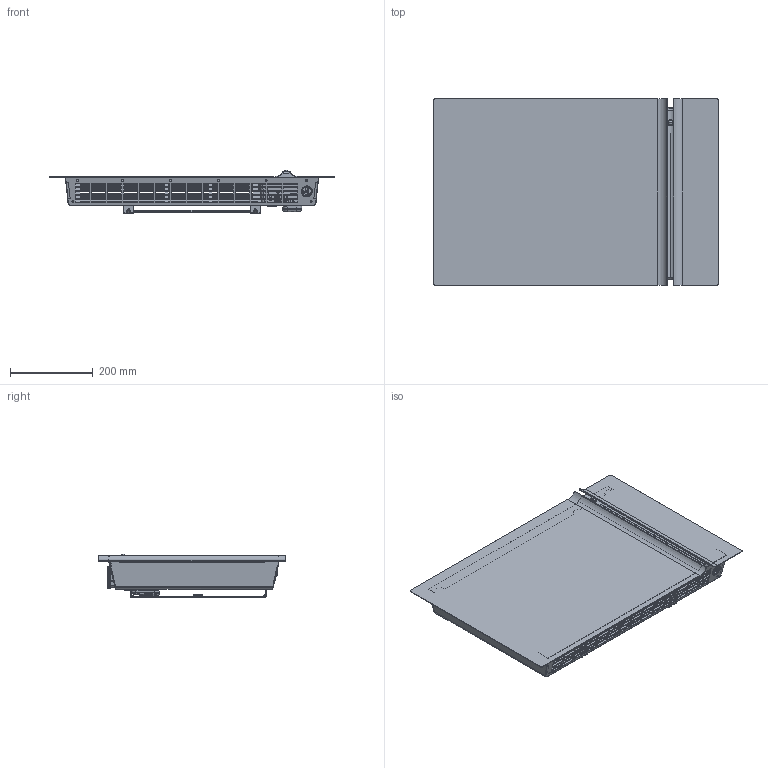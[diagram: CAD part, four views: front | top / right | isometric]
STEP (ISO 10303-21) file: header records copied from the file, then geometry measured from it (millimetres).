
FILE_DESCRIPTION(('FreeCAD Model'),'2;1');
FILE_NAME('Open CASCADE Shape Model','2026-06-03T14:24:14',(''),(''), 'Open CASCADE STEP processor 7.8','FreeCAD','Unknown');
FILE_SCHEMA(('AUTOMOTIVE_DESIGN { 1 0 10303 214 1 1 1 1 }'));
Length unit declared in the file: millimetre
Products named in the file (23): Unnamed; WFB_COPERCHIO; RMV_POSTERIORE-0750W; RMV_GR-SCATOLA-COMANDI_ASM; RMV_FONDO-SCATOLA-COMANDI; RMV_COPERCHIO-SCATOLA-COMANDI; RMV_SUPPORTO-SONDA; RMV_GR-FRONTALE_MET_0750W_ASM; RMV_FRONTALE-DX; RMV_FRONTALE-SX_0750W; RMV_BARRA-FISSAGGIO-SUP_0750W; RMV_SUPPORTO-PIR-MET; RMV_GR-PIR-BOARD_ASM; RMV_PIR-BOARD; RMV_GR-DISPLAY_ASM; RMV_PROTEZIONE-TRASPARE-DISPLAY; RMV_COPERTURA-SUPERIORE-COMANDI; SOLID016; RMV_GR-SUPPORTO-MURALE_07-10_ASM; KLI_TRAVERSA-SUPPORTO_MIN; RMV_GR-ASTA-SUPPORTO-MURALE_ASM; RMV_STAFFA-SUPPORTO-MURALE; RMV_GR-ASTA-SUPPORTO-MURALE_ASM001
Assembly tree (23 placements, depth 4):
  Unnamed
    WFB_COPERCHIO
    RMV_POSTERIORE-0750W
    RMV_GR-SCATOLA-COMANDI_ASM
      RMV_FONDO-SCATOLA-COMANDI
      RMV_COPERCHIO-SCATOLA-COMANDI
    RMV_SUPPORTO-SONDA
    RMV_GR-FRONTALE_MET_0750W_ASM
      RMV_FRONTALE-DX
      RMV_FRONTALE-SX_0750W
      RMV_BARRA-FISSAGGIO-SUP_0750W
    RMV_SUPPORTO-PIR-MET
    RMV_GR-PIR-BOARD_ASM
      RMV_PIR-BOARD
    RMV_GR-DISPLAY_ASM
      RMV_PROTEZIONE-TRASPARE-DISPLAY
    RMV_COPERTURA-SUPERIORE-COMANDI
      SOLID016
    RMV_GR-SUPPORTO-MURALE_07-10_ASM
      KLI_TRAVERSA-SUPPORTO_MIN
      RMV_GR-ASTA-SUPPORTO-MURALE_ASM
        RMV_STAFFA-SUPPORTO-MURALE
      RMV_GR-ASTA-SUPPORTO-MURALE_ASM001
        RMV_STAFFA-SUPPORTO-MURALE
Bounding box: 685 x 450 x 104.8 mm (x, y, z)
Volume: 997960 mm3; surface area: 1668464.7 mm2
Topology: 15 solids, 15 shells, 5078 faces, 13996 edges, 8992 vertices
Faces by surface type: plane 3235, cylinder 957, bspline 459, cone 275, torus 106, sphere 28, extrusion 18
Entity records: 193302 total; most frequent: CARTESIAN_POINT 73731, ORIENTED_EDGE 27398, DIRECTION 20632, EDGE_CURVE 13699, VERTEX_POINT 8811, VECTOR 8006, LINE 7988, AXIS2_PLACEMENT_3D 6313
